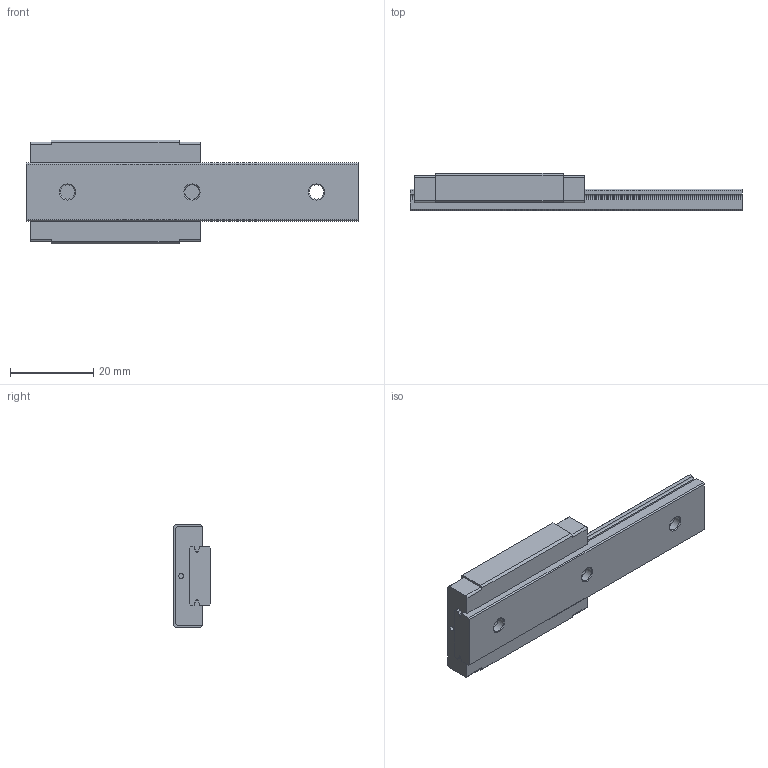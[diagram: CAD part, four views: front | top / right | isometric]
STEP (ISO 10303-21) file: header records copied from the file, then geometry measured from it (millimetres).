
FILE_DESCRIPTION( ( 'STEP AP214' ), '1' );
FILE_NAME( 'C:/Users/Futia/Documents/MLW7H.stp', '2021-11-04T07:06:08', ( 'License CC BY-ND 4.0' ), ( 'CADENAS' ), ' ', 'PARTsolutions', ' ' );
FILE_SCHEMA( ( 'AUTOMOTIVE_DESIGN { 1 0 10303 214 1 1 1 1 }' ) );
Length unit declared in the file: millimetre
Products named in the file (3): SWHC-H9-1-L80-E10; _SWHC-H9-1-L80-E10_SWHC_GUIDERAIL; _SWHC-H9-1-L80-E10_SWHC_BLOCK
Assembly tree (2 placements, depth 2):
  SWHC-H9-1-L80-E10
    _SWHC-H9-1-L80-E10_SWHC_GUIDERAIL
    _SWHC-H9-1-L80-E10_SWHC_BLOCK
Bounding box: 80 x 9 x 25 mm (x, y, z)
Volume: 10499.9 mm3; surface area: 6974.6 mm2
Topology: 2 solids, 2 shells, 105 faces, 266 edges, 174 vertices
Faces by surface type: plane 63, cylinder 32, cone 10
Full cylindrical faces by diameter (mm): 1.2 x2, 2.459 x4, 3.51 x3, 6.01 x3
Entity records: 3950 total; most frequent: DIRECTION 534, CARTESIAN_POINT 526, ORIENTED_EDGE 488, EDGE_CURVE 244, AXIS2_PLACEMENT_3D 182, VERTEX_POINT 174, LINE 170, VECTOR 170
